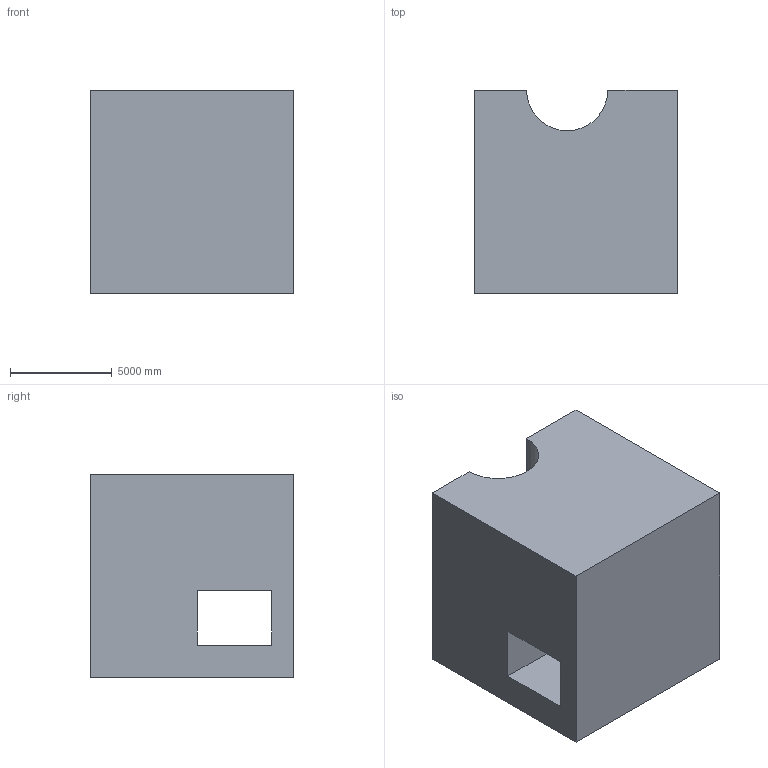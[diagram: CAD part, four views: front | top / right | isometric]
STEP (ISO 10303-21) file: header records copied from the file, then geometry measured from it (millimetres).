
FILE_DESCRIPTION (( 'STEP AP203' ), '1' );
FILE_NAME ('60.STEP', '2022-08-31T11:20:28', ( 'user' ), ( '' ), 'SwSTEP 2.0', 'SolidWorks 2021', '' );
FILE_SCHEMA (( 'CONFIG_CONTROL_DESIGN' ));
Length unit declared in the file: centimetre
Products named in the file (1): 60
Bounding box: 10000 x 10000 x 10000 mm (x, y, z)
Volume: 756548271521.2 mm3; surface area: 784099643.9 mm2
Topology: 1 solids, 1 shells, 31 faces, 93 edges, 62 vertices
Faces by surface type: plane 30, cylinder 1
Entity records: 1118 total; most frequent: CARTESIAN_POINT 187, ORIENTED_EDGE 186, DIRECTION 159, EDGE_CURVE 93, VECTOR 91, LINE 91, VERTEX_POINT 62, EDGE_LOOP 35
